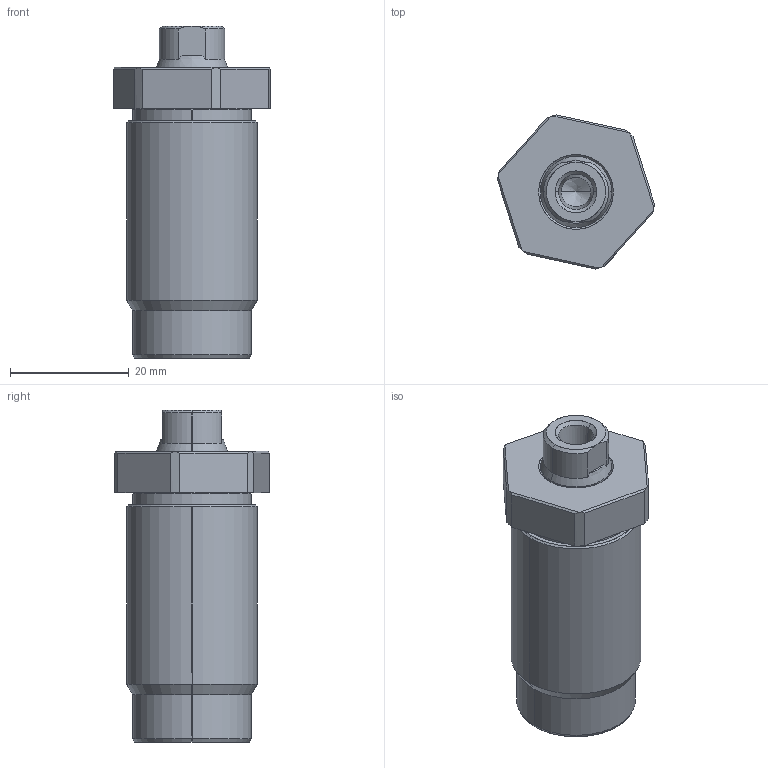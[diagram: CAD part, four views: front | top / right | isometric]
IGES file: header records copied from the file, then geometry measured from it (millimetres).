
Start section: SolidWorks IGES file using analytic representation for surfaces
Global section: file name: E:\ALL SSVT IGS MODEL\ALL THREADED BODY CYLINDER-S-M-L-IGS MODEL\TC06-M221-S-M-L-IGS-AND STEPP FILE\TC06-M22X1.5-L.IGS; native system: SolidWorks 2019; preprocessor: SolidWorks 2019; author: SSVT; date: 210827.112225; units: millimetre
Bounding box: 26.49 x 25.99 x 56 mm (x, y, z)
Surface area: 8186.8 mm2 (no closed solid volume)
Topology: 0 solids, 0 shells, 68 faces, 657 edges, 655 vertices
Faces by surface type: revolution 44, bspline 24
